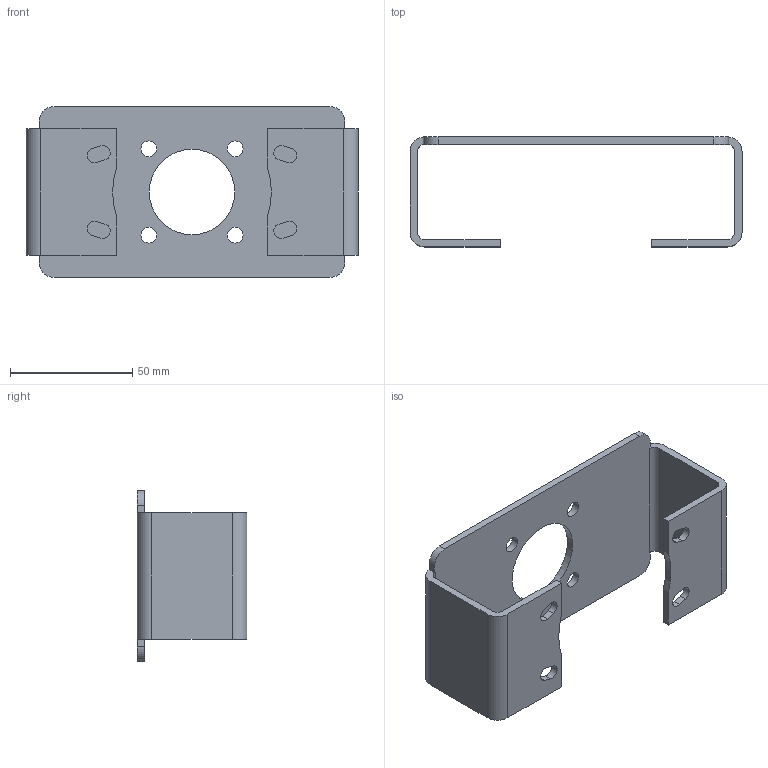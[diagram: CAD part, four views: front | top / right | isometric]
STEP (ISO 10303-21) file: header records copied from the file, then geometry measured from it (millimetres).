
FILE_DESCRIPTION((''),'2;1');
FILE_NAME('DB_21643','2015-04-30T',('DEX218155'),(''),'PRO/ENGINEER BY PARAMETRIC TECHNOLOGY CORPORATION, 2015030','PRO/ENGINEER BY PARAMETRIC TECHNOLOGY CORPORATION, 2015030','');
FILE_SCHEMA(('CONFIG_CONTROL_DESIGN'));
Length unit declared in the file: millimetre
Products named in the file (1): DB_21643
Bounding box: 136 x 45 x 70 mm (x, y, z)
Volume: 46376.5 mm3; surface area: 33878.7 mm2
Topology: 1 solids, 1 shells, 68 faces, 194 edges, 128 vertices
Faces by surface type: plane 36, cylinder 32
Entity records: 2308 total; most frequent: DIRECTION 398, CARTESIAN_POINT 390, ORIENTED_EDGE 388, EDGE_CURVE 194, AXIS2_PLACEMENT_3D 136, VERTEX_POINT 128, VECTOR 126, LINE 126
